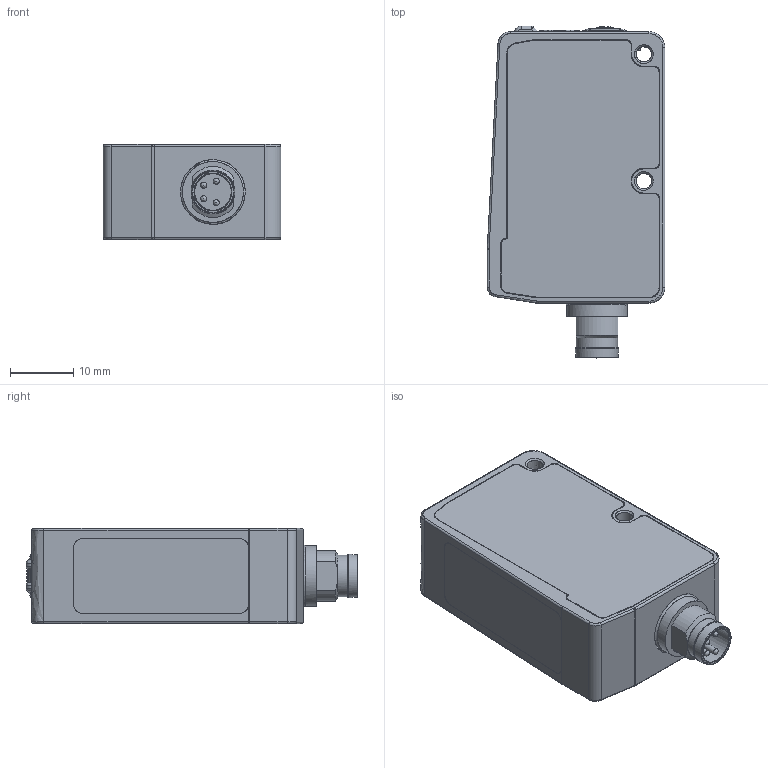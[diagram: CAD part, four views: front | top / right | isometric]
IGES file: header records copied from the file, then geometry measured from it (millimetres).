
Start section: JAMA-IS VERSION  1.0
Global section: file name: D:\CS\IDF\TESTPCB\DSD-1027.igs; native system: NX V12.0; preprocessor: SIEMENS PLM Software NX 12.0; date: 200921.125953; units: millimetre
Bounding box: 28 x 52.35 x 15 mm (x, y, z)
Surface area: 5804.8 mm2 (no closed solid volume)
Topology: 0 solids, 0 shells, 289 faces, 1736 edges, 1683 vertices
Faces by surface type: bspline 289
